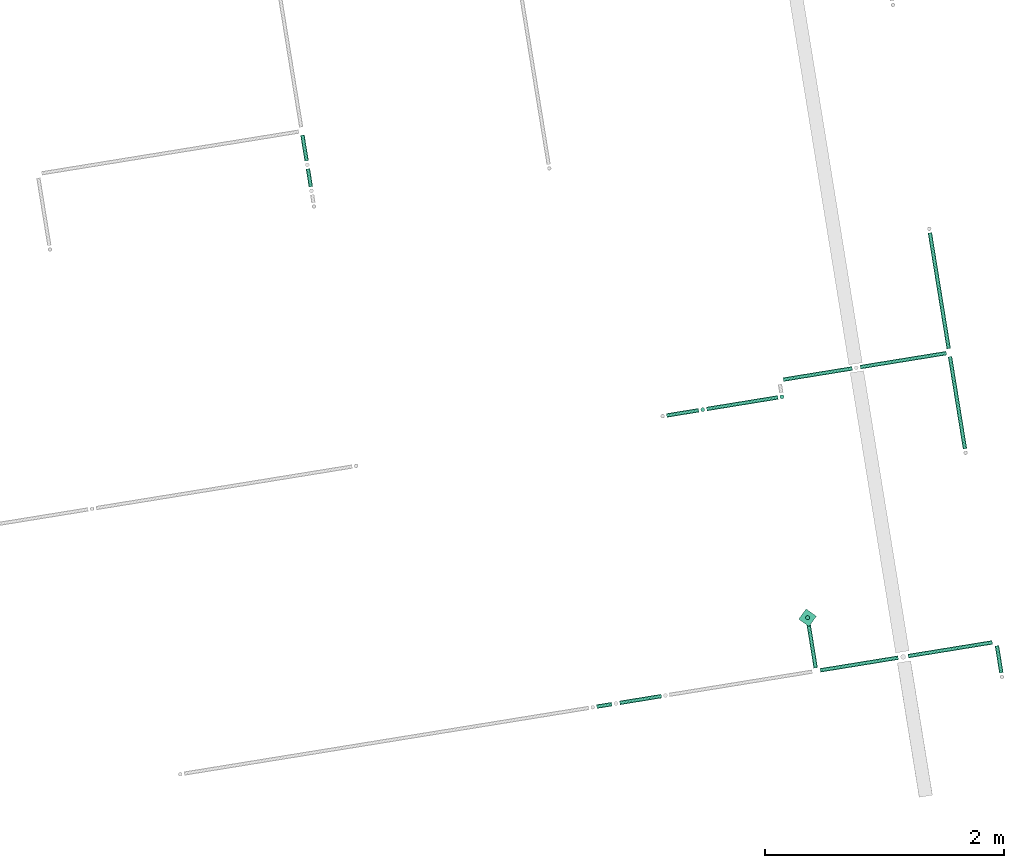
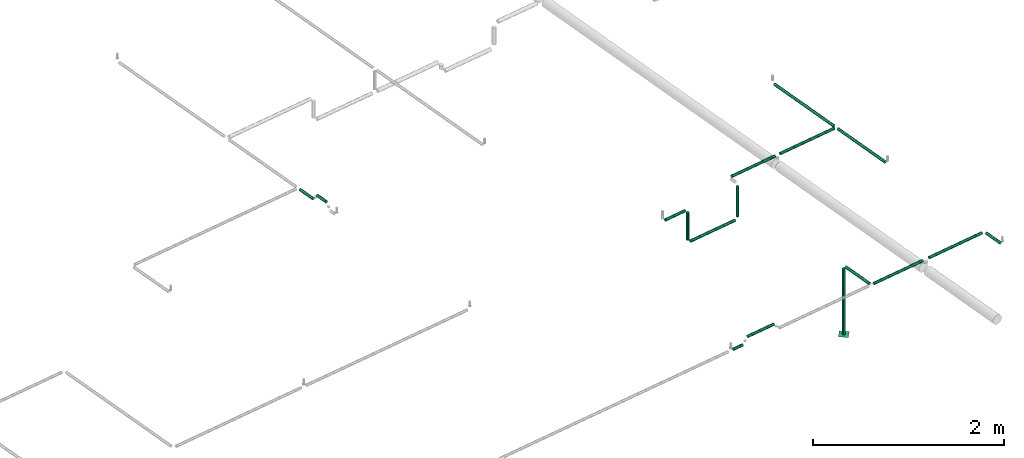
# One storey, part 3 of 11: 17 flow segments, 1 flow terminal.
"""IFC2X3 building model written with IfcOpenShell, lengths in millimetres."""

from ifc_helpers import new_model, entity, si_unit, converted_unit, derived_unit, direction, frame, frame_2d, origin, origin_with_axes, origin_2d_with_axis, place, context, subcontext, project, spatial, rectangle, circle, extrude, source, transform, mapped, material, type_object, element, save


model = new_model("IFC2X3")

# Units and contexts
model_context = context("Model", 3, precision=0.01, world=origin(), true_north=direction((6.12323399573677e-17, 1.0)))
plan_context = context("Plan", 3, precision=1e-05, world=origin_with_axes())
body_context = subcontext(model_context, "Body", "Model", "MODEL_VIEW")
ifc_project = project(units=[converted_unit("PLANEANGLEUNIT", "DEGREE", entity("IfcPositiveLengthMeasure", 0.0174532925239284), si_unit("PLANEANGLEUNIT", "RADIAN"), dimensions=[0, 0, 0, 0, 0, 0, 0]), si_unit("AREAUNIT", "SQUARE_METRE"), si_unit("LENGTHUNIT", "METRE", prefix="MILLI"), si_unit("MASSUNIT", "GRAM", prefix="KILO"), si_unit("POWERUNIT", "WATT"), si_unit("PRESSUREUNIT", "PASCAL", prefix="KILO"), si_unit("FORCEUNIT", "NEWTON", prefix="KILO"), si_unit("ELECTRICVOLTAGEUNIT", "VOLT"), si_unit("ELECTRICCURRENTUNIT", "AMPERE"), si_unit("THERMODYNAMICTEMPERATUREUNIT", "DEGREE_CELSIUS"), si_unit("TIMEUNIT", "SECOND"), si_unit("VOLUMEUNIT", "CUBIC_METRE"), derived_unit("LINEARVELOCITYUNIT", [(si_unit("LENGTHUNIT", "METRE"), 1), (si_unit("TIMEUNIT", "SECOND"), -1)]), derived_unit("VOLUMETRICFLOWRATEUNIT", [(si_unit("VOLUMEUNIT", "CUBIC_METRE"), 1), (si_unit("TIMEUNIT", "SECOND"), -1)]), derived_unit("THERMALTRANSMITTANCEUNIT", [(si_unit("POWERUNIT", "WATT"), 1), (si_unit("THERMODYNAMICTEMPERATUREUNIT", "KELVIN"), -1), (si_unit("AREAUNIT", "SQUARE_METRE"), -1)]), derived_unit("SOUNDPRESSUREUNIT", [(si_unit("PRESSUREUNIT", "PASCAL"), 1)])], contexts=[model_context, plan_context])

# Site, building, storey
site_placement = place(None, frame((-0.00071070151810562, 0.00438415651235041, 0.0), z_axis=(0.0, 0.0, 1.0), x_axis=(-0.160236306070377, 0.987078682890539, 0.0)))
site = spatial("IfcSite", under=ifc_project, at=site_placement, Name="Default", CompositionType="ELEMENT")
building_placement = place(site_placement, origin_with_axes())
building = spatial("IfcBuilding", under=site, at=building_placement, CompositionType="ELEMENT")
storey_placement = place(building_placement, frame((0.0, 0.0, 50999.9999999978), z_axis=(0.0, 0.0, 1.0), x_axis=(1.0, 0.0, 0.0)))
storey = spatial("IfcBuildingStorey", under=building, at=storey_placement, Name="Nivå D", CompositionType="ELEMENT", Elevation=50999.9999999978)

# Flow terminal
ifc_material = material(Name="2dsblk")
fire_suppression_terminal_type = type_object("IfcFireSuppressionTerminalType", Name="UZ014T:Dyse/Spreder - UZ014T", PredefinedType="NOTDEFINED", material=ifc_material)
shared_shape = source(origin(), body_context, "Body", "SweptSolid", [
    extrude(rectangle(XDim=106.066017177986, YDim=106.066017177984, at=frame_2d((-1.02673425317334e-12, -10.6066017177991), x_axis=(1.0, 0.0))), frame((7.50000000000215, 7.50000000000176, -0.1), z_axis=(0.0, 0.0, 1.0), x_axis=(0.707106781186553, -0.707106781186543, 0.0)), (0.0, 0.0, 1.0), 0.2),
])
flow_terminal_placement = place(storey_placement, frame((770317.1010448, -602204.712231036, 2551.952), z_axis=(0.0, 0.0, -1.0), x_axis=(-1.0, 0.0, 0.0)))
element("IfcFlowTerminal", 1, at=flow_terminal_placement, inside=storey, type_object=fire_suppression_terminal_type, material=ifc_material, Name="UZ014T:Dyse/Spreder - UZ014T", ObjectType="UZ014T:Dyse/Spreder - UZ014T", context=body_context, shape_type="MappedRepresentation", body=[
    mapped(shared_shape, transform((0.0, 0.0, 0.0), scale=1.0)),
])

# Flow segments
pipe_segment_type = type_object("IfcPipeSegmentType", Name="Pipe Types:Stålrør normaltykke", PredefinedType="NOTDEFINED")
flow_segment_1_placement = place(storey_placement, origin_with_axes())
element("IfcFlowSegment", 2, at=flow_segment_1_placement, inside=storey, type_object=pipe_segment_type, Name="Pipe Types:Stålrør normaltykke", ObjectType="Pipe Types:Stålrør normaltykke", context=body_context, shape_type="SweptSolid", body=[
    extrude(circle(Radius=16.8500004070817, at=frame_2d((0.0, 8.66293703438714e-12), x_axis=(1.0, 0.0))), frame((769601.419648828, -603732.480498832, 3430.0), z_axis=(1.0, -1.61903093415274e-08, 0.0), x_axis=(1.61903093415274e-08, 1.0, 0.0)), (0.0, 0.0, 1.0), 229.900003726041),
])
flow_segment_2_placement = place(storey_placement, origin_with_axes())
element("IfcFlowSegment", 3, at=flow_segment_2_placement, inside=storey, type_object=pipe_segment_type, Name="Pipe Types:Stålrør normaltykke", ObjectType="Pipe Types:Stålrør normaltykke", context=body_context, shape_type="SweptSolid", body=[
    extrude(circle(Radius=16.8500004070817, at=frame_2d((-2.77213985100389e-10, 8.66293703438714e-12), x_axis=(1.0, 0.0))), frame((769865.119652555, -602900.20820948, 3430.0), z_axis=(0.0, 1.0, 0.0), x_axis=(-1.0, 0.0, 0.0)), (0.0, 0.0, 1.0), 661.695978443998),
])
flow_segment_3_placement = place(storey_placement, origin_with_axes())
element("IfcFlowSegment", 4, at=flow_segment_3_placement, inside=storey, type_object=pipe_segment_type, Name="Pipe Types:Stålrør normaltykke", ObjectType="Pipe Types:Stålrør normaltykke", context=body_context, shape_type="SweptSolid", body=[
    extrude(circle(Radius=16.8500004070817, at=origin_2d_with_axis()), frame((772177.619652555, -601583.680498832, 3395.96798004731), z_axis=(0.0, 1.0, 0.0), x_axis=(-1.0, 0.0, 0.0)), (0.0, 0.0, 1.0), 272.399999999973),
])
flow_segment_4_placement = place(storey_placement, origin_with_axes())
element("IfcFlowSegment", 5, at=flow_segment_4_placement, inside=storey, type_object=pipe_segment_type, Name="Pipe Types:Stålrør normaltykke", ObjectType="Pipe Types:Stålrør normaltykke", context=body_context, shape_type="SweptSolid", body=[
    extrude(circle(Radius=16.8500004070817, at=origin_2d_with_axis()), frame((772177.619652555, -601617.480498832, 3009.76798004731)), (0.0, 0.0, 1.0), 352.399999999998),
])
flow_segment_5_placement = place(storey_placement, origin_with_axes())
element("IfcFlowSegment", 6, at=flow_segment_5_placement, inside=storey, type_object=pipe_segment_type, Name="Pipe Types:Stålrør normaltykke", ObjectType="Pipe Types:Stålrør normaltykke", context=body_context, shape_type="SweptSolid", body=[
    extrude(circle(Radius=16.8500004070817, at=origin_2d_with_axis()), frame((772177.619652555, -602255.768788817, 2975.96798004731), z_axis=(0.0, 1.0, 0.0), x_axis=(-1.0, 0.0, 0.0)), (0.0, 0.0, 1.0), 604.488289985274),
])
flow_segment_6_placement = place(storey_placement, origin_with_axes())
element("IfcFlowSegment", 7, at=flow_segment_6_placement, inside=storey, type_object=pipe_segment_type, Name="Pipe Types:Stålrør normaltykke", ObjectType="Pipe Types:Stålrør normaltykke", context=body_context, shape_type="SweptSolid", body=[
    extrude(circle(Radius=16.8500004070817, at=origin_2d_with_axis()), frame((772177.619652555, -602289.568788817, 3009.76798004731), z_axis=(0.0, 0.0, 1.0), x_axis=(-1.0, 0.0, 0.0)), (0.0, 0.0, 1.0), 386.432019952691),
])
flow_segment_7_placement = place(storey_placement, origin_with_axes())
element("IfcFlowSegment", 8, at=flow_segment_7_placement, inside=storey, type_object=pipe_segment_type, Name="Pipe Types:Stålrør normaltykke", ObjectType="Pipe Types:Stålrør normaltykke", context=body_context, shape_type="SweptSolid", body=[
    extrude(circle(Radius=16.8500004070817, at=origin_2d_with_axis()), frame((774765.219648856, -598677.480498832, 3430.0), z_axis=(1.0, 0.0, 0.0), x_axis=(0.0, -1.0, 0.0)), (0.0, 0.0, 1.0), 218.600003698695),
])
flow_segment_8_placement = place(storey_placement, origin_with_axes())
element("IfcFlowSegment", 9, at=flow_segment_8_placement, inside=storey, type_object=pipe_segment_type, Name="Pipe Types:Stålrør normaltykke", ObjectType="Pipe Types:Stålrør normaltykke", context=body_context, shape_type="SweptSolid", body=[
    extrude(circle(Radius=16.8500004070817, at=frame_2d((0.0, 8.66293703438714e-12), x_axis=(1.0, 0.0))), frame((769865.119652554, -603698.680502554, 3430.0), z_axis=(0.0, 1.0, 0.0), x_axis=(-1.0, 0.0, 0.0)), (0.0, 0.0, 1.0), 713.672293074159),
])
flow_segment_9_placement = place(storey_placement, origin_with_axes())
element("IfcFlowSegment", 10, at=flow_segment_9_placement, inside=storey, type_object=pipe_segment_type, Name="Pipe Types:Stålrør normaltykke", ObjectType="Pipe Types:Stålrør normaltykke", context=body_context, shape_type="SweptSolid", body=[
    extrude(circle(Radius=16.8500004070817, at=origin_2d_with_axis()), frame((772351.41964884, -603732.480498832, 3430.0), z_axis=(1.0, 0.0, 0.0), x_axis=(0.0, -1.0, 0.0)), (0.0, 0.0, 1.0), 982.399999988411),
])
flow_segment_10_placement = place(storey_placement, origin_with_axes())
element("IfcFlowSegment", 11, at=flow_segment_10_placement, inside=storey, type_object=pipe_segment_type, Name="Pipe Types:Stålrør normaltykke", ObjectType="Pipe Types:Stålrør normaltykke", context=body_context, shape_type="SweptSolid", body=[
    extrude(circle(Radius=16.8500004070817, at=frame_2d((0.0, -8.66293703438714e-12), x_axis=(1.0, 0.0))), frame((774545.219648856, -598677.480498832, 3510.0), z_axis=(1.0, 0.0, 0.0), x_axis=(0.0, -1.0, 0.0)), (0.0, 0.0, 1.0), 152.400000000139),
])
flow_segment_11_placement = place(storey_placement, origin_with_axes())
element("IfcFlowSegment", 12, at=flow_segment_11_placement, inside=storey, type_object=pipe_segment_type, Name="Pipe Types:Stålrør normaltykke", ObjectType="Pipe Types:Stålrør normaltykke", context=body_context, shape_type="SweptSolid", body=[
    extrude(circle(Radius=16.8500004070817, at=origin_2d_with_axis()), frame((771501.419648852, -603732.480498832, 3430.0), z_axis=(1.0, 0.0, 0.0), x_axis=(0.0, -1.0, 0.0)), (0.0, 0.0, 1.0), 782.399999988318),
])
flow_segment_12_placement = place(storey_placement, origin_with_axes())
element("IfcFlowSegment", 13, at=flow_segment_12_placement, inside=storey, type_object=pipe_segment_type, Name="Pipe Types:Stålrør normaltykke", ObjectType="Pipe Types:Stålrør normaltykke", context=body_context, shape_type="SweptSolid", body=[
    extrude(circle(Radius=16.8500004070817, at=origin_2d_with_axis()), frame((772317.619648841, -603707.130498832, 3430.0), z_axis=(0.0, 1.0, 0.0), x_axis=(1.0, 0.0, 0.0)), (0.0, 0.0, 1.0), 730.722289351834),
])
flow_segment_13_placement = place(storey_placement, origin_with_axes())
element("IfcFlowSegment", 14, at=flow_segment_13_placement, inside=storey, type_object=pipe_segment_type, Name="Pipe Types:Stålrør normaltykke", ObjectType="Pipe Types:Stålrør normaltykke", context=body_context, shape_type="SweptSolid", body=[
    extrude(circle(Radius=16.8500004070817, at=origin_2d_with_axis()), frame((772317.619648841, -602908.80820948, 3430.0), z_axis=(0.0, 1.0, 0.0), x_axis=(1.0, 0.0, 0.0)), (0.0, 0.0, 1.0), 585.439420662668),
])
flow_segment_14_placement = place(storey_placement, origin_with_axes())
element("IfcFlowSegment", 15, at=flow_segment_14_placement, inside=storey, type_object=pipe_segment_type, Name="Pipe Types:Stålrør normaltykke", ObjectType="Pipe Types:Stålrør normaltykke", context=body_context, shape_type="SweptSolid", body=[
    extrude(circle(Radius=16.8500004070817, at=frame_2d((0.0, 8.66293703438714e-12), x_axis=(1.0, 0.0))), frame((769865.119652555, -600471.114427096, 3430.0), z_axis=(0.0, 1.0, 0.0), x_axis=(-1.0, 0.0, 0.0)), (0.0, 0.0, 1.0), 127.832688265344),
])
flow_segment_15_placement = place(storey_placement, origin_with_axes())
element("IfcFlowSegment", 16, at=flow_segment_15_placement, inside=storey, type_object=pipe_segment_type, Name="Pipe Types:Stålrør normaltykke", ObjectType="Pipe Types:Stålrør normaltykke", context=body_context, shape_type="SweptSolid", body=[
    extrude(circle(Radius=16.8500004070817, at=origin_2d_with_axis()), frame((769865.119652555, -600891.681404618, 3508.3900598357), z_axis=(0.0, 1.0, 0.0), x_axis=(1.0, 0.0, 0.0)), (0.0, 0.0, 1.0), 352.966977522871),
])
flow_segment_16_placement = place(storey_placement, origin_with_axes())
element("IfcFlowSegment", 17, at=flow_segment_16_placement, inside=storey, type_object=pipe_segment_type, Name="Pipe Types:Stålrør normaltykke", ObjectType="Pipe Types:Stålrør normaltykke", context=body_context, shape_type="SweptSolid", body=[
    extrude(circle(Radius=16.8500004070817, at=origin_2d_with_axis()), frame((770317.1010448, -602204.712231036, 2555.0), z_axis=(0.0, 0.0, 1.0), x_axis=(-1.0, 0.0, 0.0)), (0.0, 0.0, 1.0), 841.200000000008),
])
flow_segment_17_placement = place(storey_placement, origin_with_axes())
element("IfcFlowSegment", 18, at=flow_segment_17_placement, inside=storey, type_object=pipe_segment_type, Name="Pipe Types:Stålrør normaltykke", ObjectType="Pipe Types:Stålrør normaltykke", context=body_context, shape_type="SweptSolid", body=[
    extrude(circle(Radius=16.8500004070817, at=origin_2d_with_axis()), frame((769890.469652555, -602204.712231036, 3430.0), z_axis=(1.0, 0.0, 0.0), x_axis=(0.0, -1.0, 0.0)), (0.0, 0.0, 1.0), 392.831392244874),
])

save(model, "model.ifc")
